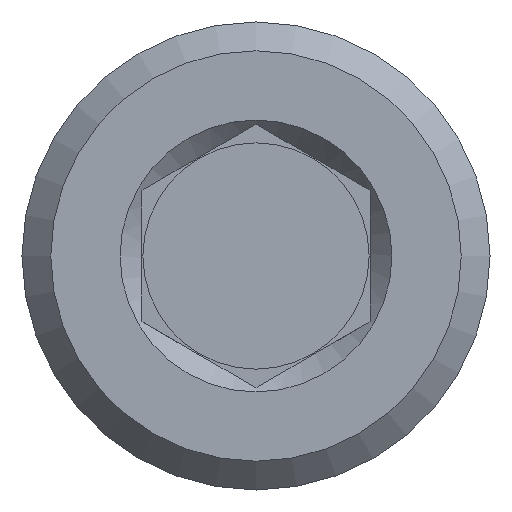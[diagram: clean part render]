
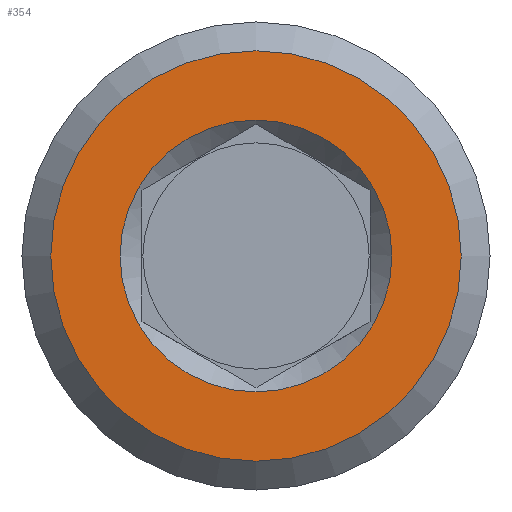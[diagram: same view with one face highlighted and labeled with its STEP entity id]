
A CAD part, front view. The second image highlights one B-rep face of the part: STEP entity #354.
In plain terms, the highlighted planar face has unit normal (0, -1, 0).
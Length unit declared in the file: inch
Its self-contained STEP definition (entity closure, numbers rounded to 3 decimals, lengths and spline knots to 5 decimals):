
#20=FACE_BOUND('',#114,.T.);
#89=FACE_OUTER_BOUND('',#113,.T.);
#113=EDGE_LOOP('',(#300));
#114=EDGE_LOOP('',(#301));
#136=CIRCLE('',#407,0.149);
#137=CIRCLE('',#409,0.225);
#170=VERTEX_POINT('',#625);
#171=VERTEX_POINT('',#629);
#215=EDGE_CURVE('',#170,#170,#136,.T.);
#216=EDGE_CURVE('',#171,#171,#137,.T.);
#300=ORIENTED_EDGE('',*,*,#216,.F.);
#301=ORIENTED_EDGE('',*,*,#215,.F.);
#336=PLANE('',#408);
#354=ADVANCED_FACE('',(#89,#20),#336,.T.);
#407=AXIS2_PLACEMENT_3D('',#627,#502,#503);
#408=AXIS2_PLACEMENT_3D('',#628,#504,#505);
#409=AXIS2_PLACEMENT_3D('',#630,#506,#507);
#502=DIRECTION('center_axis',(0.,-1.,0.));
#503=DIRECTION('ref_axis',(0.,0.,1.));
#504=DIRECTION('center_axis',(0.,-1.,0.));
#505=DIRECTION('ref_axis',(0.,0.,-1.));
#506=DIRECTION('center_axis',(0.,1.,0.));
#507=DIRECTION('ref_axis',(0.,0.,1.));
#625=CARTESIAN_POINT('',(0.,0.,-0.149));
#627=CARTESIAN_POINT('Origin',(0.,0.,0.));
#628=CARTESIAN_POINT('Origin',(0.,0.,-0.124));
#629=CARTESIAN_POINT('',(0.,0.,-0.225));
#630=CARTESIAN_POINT('Origin',(0.,0.,0.));
